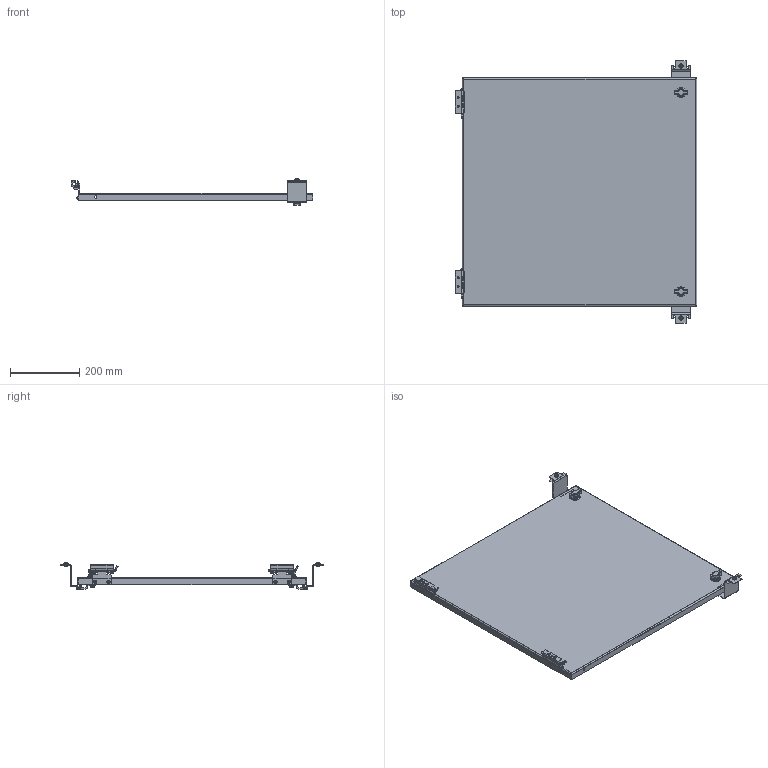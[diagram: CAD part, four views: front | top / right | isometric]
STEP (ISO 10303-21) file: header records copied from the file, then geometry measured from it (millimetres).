
FILE_DESCRIPTION((''),'2;1');
FILE_NAME('MODEL-078_ASM','2013-05-29T',('JoshI'),('SAGINAW CONTROL & ENGINEERING'),'PRO/ENGINEER BY PARAMETRIC TECHNOLOGY CORPORATION, 2012070','PRO/ENGINEER BY PARAMETRIC TECHNOLOGY CORPORATION, 2012070','');
FILE_SCHEMA(('AUTOMOTIVE_DESIGN { 1 0 10303 214 1 1 1 1 }'));
Length unit declared in the file: inch
Products named in the file (23): MODEL-078-PNL; 115751; 100022; 115751_ASM; 101376; 101376-PIN; 101376_DF_ASM; 101645; 101670; 102470; 101080_SHAFT; 101080_HANDLE; 101080_INSERT; 101080_NUT; 101080_SCREW; 102804_CAM_28MM; 101080_ASM; 115161; 115161_ASM; 102152; 102483; 113346; MODEL-078_ASM
Assembly tree (37 placements, depth 3):
  MODEL-078_ASM
    MODEL-078-PNL
    115751_ASM  x2
      115751
      100022
    101376_DF_ASM  x2
      101376
      101376-PIN
    101645  x4
    101670  x2
    102470  x4
    101080_ASM  x2
      101080_SHAFT
      101080_HANDLE
      101080_INSERT
      101080_NUT
      101080_SCREW
      102804_CAM_28MM
    115161_ASM  x2
      115161
      100022
    102152  x2
    102483  x2
    113346
Bounding box: 698.33 x 757.88 x 79.21 mm (x, y, z)
Volume: 1078001.7 mm3; surface area: 1085677.1 mm2
Topology: 39 solids, 41 shells, 1872 faces, 4654 edges, 2810 vertices
Faces by surface type: plane 838, cylinder 628, bspline 182, cone 108, torus 98, sphere 18
Entity records: 37455 total; most frequent: CARTESIAN_POINT 8660, DIRECTION 4603, ORIENTED_EDGE 4416, EDGE_CURVE 2208, PRESENTATION_STYLE_ASSIGNMENT 2006, STYLED_ITEM 2006, CURVE_STYLE 1976, AXIS2_PLACEMENT_3D 1697
